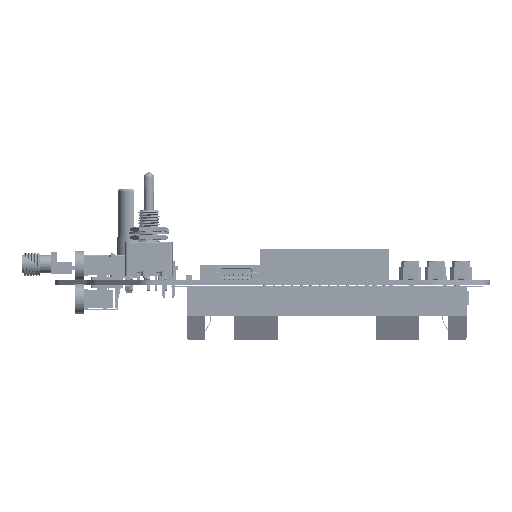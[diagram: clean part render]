
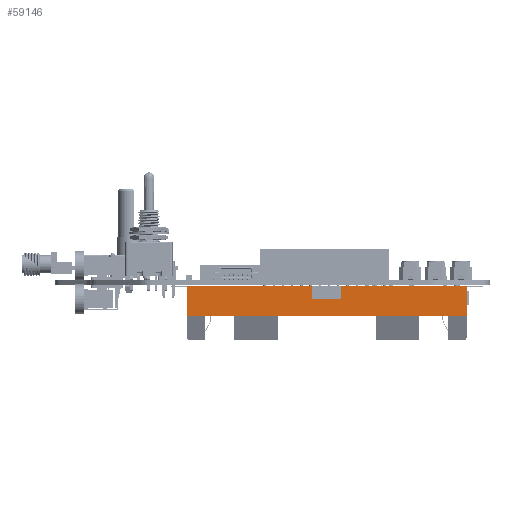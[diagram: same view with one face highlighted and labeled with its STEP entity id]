
A CAD part, left-side view. The second image highlights one B-rep face of the part: STEP entity #59146.
In plain terms, the highlighted planar face has unit normal (-1, 0, 0).
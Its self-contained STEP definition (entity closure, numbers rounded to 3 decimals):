
#58318 = VERTEX_POINT('',#58319);
#58319 = CARTESIAN_POINT('',(-10.325,38.525,
    0.1));
#58325 = EDGE_CURVE('',#58326,#58318,#58328,.T.);
#58326 = VERTEX_POINT('',#58327);
#58327 = CARTESIAN_POINT('',(-10.325,38.525,
    8.46));
#58328 = LINE('',#58329,#58330);
#58329 = CARTESIAN_POINT('',(-10.325,38.525,
    14.96));
#58330 = VECTOR('',#58331,1.);
#58331 = DIRECTION('',(-0.,-0.,-1.));
#59029 = VERTEX_POINT('',#59030);
#59030 = CARTESIAN_POINT('',(-10.325,4.,
    0.1));
#59036 = EDGE_CURVE('',#58318,#59029,#59037,.T.);
#59037 = LINE('',#59038,#59039);
#59038 = CARTESIAN_POINT('',(-10.325,38.525,
    0.1));
#59039 = VECTOR('',#59040,1.);
#59040 = DIRECTION('',(0.,-1.,0.));
#59113 = VERTEX_POINT('',#59114);
#59114 = CARTESIAN_POINT('',(-10.325,-38.525,
    0.1));
#59120 = EDGE_CURVE('',#59121,#59113,#59123,.T.);
#59121 = VERTEX_POINT('',#59122);
#59122 = CARTESIAN_POINT('',(-10.325,-4.,
    0.1));
#59123 = LINE('',#59124,#59125);
#59124 = CARTESIAN_POINT('',(-10.325,38.525,
    0.1));
#59125 = VECTOR('',#59126,1.);
#59126 = DIRECTION('',(0.,-1.,0.));
#59146 = ADVANCED_FACE('',(#59147),#59236,.F.);
#59147 = FACE_BOUND('',#59148,.T.);
#59148 = EDGE_LOOP('',(#59149,#59157,#59165,#59171,#59172,#59180,#59188,
    #59196,#59204,#59212,#59220,#59228,#59234,#59235));
#59149 = ORIENTED_EDGE('',*,*,#59150,.T.);
#59150 = EDGE_CURVE('',#59029,#59151,#59153,.T.);
#59151 = VERTEX_POINT('',#59152);
#59152 = CARTESIAN_POINT('',(-10.325,4.,
    3.6));
#59153 = LINE('',#59154,#59155);
#59154 = CARTESIAN_POINT('',(-10.325,4.,
    3.6));
#59155 = VECTOR('',#59156,1.);
#59156 = DIRECTION('',(0.,0.,1.));
#59157 = ORIENTED_EDGE('',*,*,#59158,.T.);
#59158 = EDGE_CURVE('',#59151,#59159,#59161,.T.);
#59159 = VERTEX_POINT('',#59160);
#59160 = CARTESIAN_POINT('',(-10.325,-4.,
    3.6));
#59161 = LINE('',#59162,#59163);
#59162 = CARTESIAN_POINT('',(-10.325,-4.,
    3.6));
#59163 = VECTOR('',#59164,1.);
#59164 = DIRECTION('',(0.,-1.,0.));
#59165 = ORIENTED_EDGE('',*,*,#59166,.T.);
#59166 = EDGE_CURVE('',#59159,#59121,#59167,.T.);
#59167 = LINE('',#59168,#59169);
#59168 = CARTESIAN_POINT('',(-10.325,-4.,
    3.6));
#59169 = VECTOR('',#59170,1.);
#59170 = DIRECTION('',(0.,0.,-1.));
#59171 = ORIENTED_EDGE('',*,*,#59120,.T.);
#59172 = ORIENTED_EDGE('',*,*,#59173,.F.);
#59173 = EDGE_CURVE('',#59174,#59113,#59176,.T.);
#59174 = VERTEX_POINT('',#59175);
#59175 = CARTESIAN_POINT('',(-10.325,-38.525,
    8.46));
#59176 = LINE('',#59177,#59178);
#59177 = CARTESIAN_POINT('',(-10.325,-38.525,
    14.96));
#59178 = VECTOR('',#59179,1.);
#59179 = DIRECTION('',(-0.,-0.,-1.));
#59180 = ORIENTED_EDGE('',*,*,#59181,.T.);
#59181 = EDGE_CURVE('',#59174,#59182,#59184,.T.);
#59182 = VERTEX_POINT('',#59183);
#59183 = CARTESIAN_POINT('',(-10.325,-33.525,
    8.46));
#59184 = LINE('',#59185,#59186);
#59185 = CARTESIAN_POINT('',(-10.325,38.525,
    8.46));
#59186 = VECTOR('',#59187,1.);
#59187 = DIRECTION('',(0.,1.,0.));
#59188 = ORIENTED_EDGE('',*,*,#59189,.F.);
#59189 = EDGE_CURVE('',#59190,#59182,#59192,.T.);
#59190 = VERTEX_POINT('',#59191);
#59191 = CARTESIAN_POINT('',(-10.325,-25.525,
    8.46));
#59192 = LINE('',#59193,#59194);
#59193 = CARTESIAN_POINT('',(-10.325,-33.525,
    8.46));
#59194 = VECTOR('',#59195,1.);
#59195 = DIRECTION('',(0.,-1.,-0.));
#59196 = ORIENTED_EDGE('',*,*,#59197,.T.);
#59197 = EDGE_CURVE('',#59190,#59198,#59200,.T.);
#59198 = VERTEX_POINT('',#59199);
#59199 = CARTESIAN_POINT('',(-10.325,-13.525,
    8.46));
#59200 = LINE('',#59201,#59202);
#59201 = CARTESIAN_POINT('',(-10.325,38.525,
    8.46));
#59202 = VECTOR('',#59203,1.);
#59203 = DIRECTION('',(0.,1.,0.));
#59204 = ORIENTED_EDGE('',*,*,#59205,.F.);
#59205 = EDGE_CURVE('',#59206,#59198,#59208,.T.);
#59206 = VERTEX_POINT('',#59207);
#59207 = CARTESIAN_POINT('',(-10.325,13.525,
    8.46));
#59208 = LINE('',#59209,#59210);
#59209 = CARTESIAN_POINT('',(-10.325,13.525,
    8.46));
#59210 = VECTOR('',#59211,1.);
#59211 = DIRECTION('',(0.,-1.,0.));
#59212 = ORIENTED_EDGE('',*,*,#59213,.T.);
#59213 = EDGE_CURVE('',#59206,#59214,#59216,.T.);
#59214 = VERTEX_POINT('',#59215);
#59215 = CARTESIAN_POINT('',(-10.325,25.525,
    8.46));
#59216 = LINE('',#59217,#59218);
#59217 = CARTESIAN_POINT('',(-10.325,38.525,
    8.46));
#59218 = VECTOR('',#59219,1.);
#59219 = DIRECTION('',(0.,1.,0.));
#59220 = ORIENTED_EDGE('',*,*,#59221,.F.);
#59221 = EDGE_CURVE('',#59222,#59214,#59224,.T.);
#59222 = VERTEX_POINT('',#59223);
#59223 = CARTESIAN_POINT('',(-10.325,33.525,
    8.46));
#59224 = LINE('',#59225,#59226);
#59225 = CARTESIAN_POINT('',(-10.325,33.525,
    8.46));
#59226 = VECTOR('',#59227,1.);
#59227 = DIRECTION('',(0.,-1.,0.));
#59228 = ORIENTED_EDGE('',*,*,#59229,.T.);
#59229 = EDGE_CURVE('',#59222,#58326,#59230,.T.);
#59230 = LINE('',#59231,#59232);
#59231 = CARTESIAN_POINT('',(-10.325,38.525,
    8.46));
#59232 = VECTOR('',#59233,1.);
#59233 = DIRECTION('',(0.,1.,0.));
#59234 = ORIENTED_EDGE('',*,*,#58325,.T.);
#59235 = ORIENTED_EDGE('',*,*,#59036,.T.);
#59236 = PLANE('',#59237);
#59237 = AXIS2_PLACEMENT_3D('',#59238,#59239,#59240);
#59238 = CARTESIAN_POINT('',(-10.325,38.525,
    14.96));
#59239 = DIRECTION('',(1.,0.,0.));
#59240 = DIRECTION('',(0.,1.,0.));
